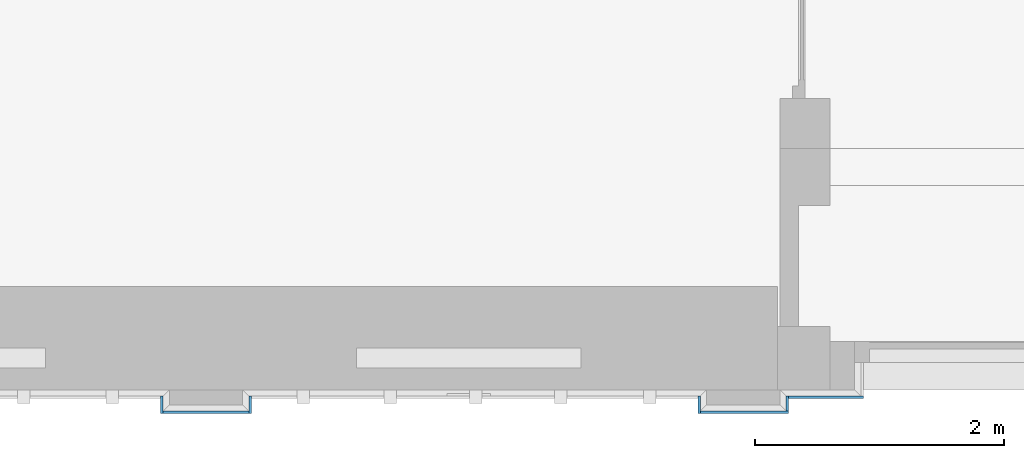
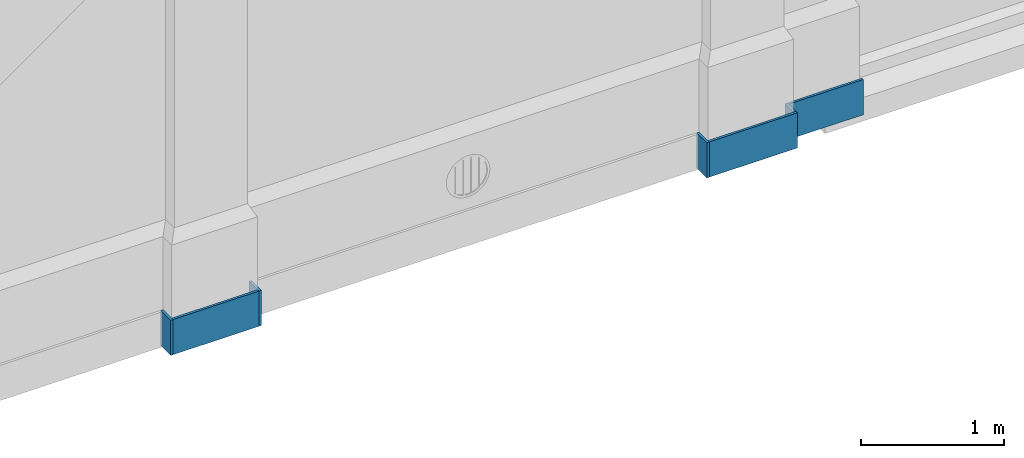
"""IFC4 building model written with IfcOpenShell, lengths in metres."""

from ifc_helpers import new_model, entity, si_unit, converted_unit, derived_unit, frame, frame_2d, origin, origin_with_axes, place, context, subcontext, project, spatial, rectangle, extrude, material, layer, layer_set, layer_usage, element, save


model = new_model("IFC4")

# Units and contexts
model_context = context("Model", 3, precision=1e-05, world=origin())
body_context = subcontext(model_context, "Body", "Model", "MODEL_VIEW")
ifc_project = project(units=[si_unit("LENGTHUNIT", "METRE"), si_unit("AREAUNIT", "SQUARE_METRE"), si_unit("VOLUMEUNIT", "CUBIC_METRE"), si_unit("MASSUNIT", "GRAM", prefix="KILO"), converted_unit("PLANEANGLEUNIT", "DEGREE", entity("IfcPlaneAngleMeasure", 0.0174532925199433), si_unit("PLANEANGLEUNIT", "RADIAN"), dimensions=[0, 0, 0, 0, 0, 0, 0]), derived_unit("THERMALTRANSMITTANCEUNIT", [(si_unit("POWERUNIT", "WATT"), 1), (si_unit("THERMODYNAMICTEMPERATUREUNIT", "KELVIN"), -1), (si_unit("LENGTHUNIT", "METRE"), -2)]), derived_unit("VOLUMETRICFLOWRATEUNIT", [(si_unit("LENGTHUNIT", "METRE"), 3), (converted_unit("TIMEUNIT", "hour", entity("IfcTimeMeasure", 3600.0), si_unit("TIMEUNIT", "SECOND"), dimensions=[0, 0, 1, 0, 0, 0, 0]), -1), (si_unit("LENGTHUNIT", "METRE"), -1)])], contexts=[model_context])

# Building, storeys
building_placement = place(None, origin())
building = spatial("IfcBuilding", under=ifc_project, at=building_placement, Name="Bestandsgebäude A - Sporthalle / Wohnhaus (TB 100-499)   ANPASSEN !!!", CompositionType="ELEMENT")
storey_1_placement = place(building_placement, origin())
storey_1 = spatial("IfcBuildingStorey", under=building, at=storey_1_placement, Name="Geb. A Erdgeschoss (TB 200-249)", CompositionType="ELEMENT", Elevation=0.0)
storey_2_placement = place(storey_1_placement, origin())
storey_2 = spatial("IfcBuildingStorey", under=storey_1, at=storey_2_placement, Name="Architektur (TB 200-209)", CompositionType="PARTIAL")

# Walls
ifc_material_1 = material(Name="concrete")
ifc_layer_1 = layer(ifc_material_1, 0.02)
ifc_layer_set_1 = layer_set([ifc_layer_1])
ifc_layer_usage_1 = layer_usage(ifc_layer_set_1, "AXIS2", "POSITIVE", 0.0)
wall_1_placement = place(storey_2_placement, frame((-13.855, -0.189999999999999, -0.3), z_axis=(0.0, 0.0, 1.0), x_axis=(1.29927814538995e-14, 1.0, 0.0)))
element("IfcWall", 1, at=wall_1_placement, inside=storey_2, material=ifc_layer_usage_1, Name="reinforced - bearing", PredefinedType="USERDEFINED", context=body_context, shape_type="SweptSolid", body=[
    extrude(rectangle(XDim=0.139999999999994, YDim=0.02, at=frame_2d((0.0699999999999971, 0.01), x_axis=(1.0, 0.0))), origin_with_axes(), (0.0, 0.0, 1.0), 0.3),
])
ifc_material_2 = material(Name="concrete")
ifc_layer_2 = layer(ifc_material_2, 0.02)
ifc_layer_set_2 = layer_set([ifc_layer_2])
ifc_layer_usage_2 = layer_usage(ifc_layer_set_2, "AXIS2", "POSITIVE", 0.0)
wall_2_placement = place(storey_2_placement, frame((-13.165, -0.169999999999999, -0.3), z_axis=(0.0, 0.0, 1.0), x_axis=(-1.0, 7.00245014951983e-16, 0.0)))
element("IfcWall", 2, at=wall_2_placement, inside=storey_2, material=ifc_layer_usage_2, Name="reinforced - bearing", PredefinedType="USERDEFINED", context=body_context, shape_type="SweptSolid", body=[
    extrude(rectangle(XDim=0.69, YDim=0.02, at=frame_2d((0.345, 0.01), x_axis=(1.0, 0.0))), origin_with_axes(), (0.0, 0.0, 1.0), 0.3),
])
ifc_material_3 = material(Name="concrete")
ifc_layer_3 = layer(ifc_material_3, 0.02)
ifc_layer_set_3 = layer_set([ifc_layer_3])
ifc_layer_usage_3 = layer_usage(ifc_layer_set_3, "AXIS2", "POSITIVE", 0.0)
wall_3_placement = place(storey_2_placement, frame((-13.165, -0.0500000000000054, -0.3), z_axis=(0.0, 0.0, 1.0), x_axis=(0.0, -1.0, 0.0)))
element("IfcWall", 3, at=wall_3_placement, inside=storey_2, material=ifc_layer_usage_3, Name="reinforced - bearing", PredefinedType="USERDEFINED", context=body_context, shape_type="SweptSolid", body=[
    extrude(rectangle(XDim=0.139999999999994, YDim=0.02, at=frame_2d((0.0699999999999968, 0.01), x_axis=(1.0, 0.0))), origin_with_axes(), (0.0, 0.0, 1.0), 0.3),
])
ifc_material_4 = material(Name="concrete")
ifc_layer_4 = layer(ifc_material_4, 0.02)
ifc_layer_set_4 = layer_set([ifc_layer_4])
ifc_layer_usage_4 = layer_usage(ifc_layer_set_4, "AXIS2", "POSITIVE", 0.0)
wall_4_placement = place(storey_2_placement, frame((-9.54000000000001, -0.189999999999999, -0.3), z_axis=(0.0, 0.0, 1.0), x_axis=(1.29927814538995e-14, 1.0, 0.0)))
element("IfcWall", 4, at=wall_4_placement, inside=storey_2, material=ifc_layer_usage_4, Name="reinforced - bearing", PredefinedType="USERDEFINED", context=body_context, shape_type="SweptSolid", body=[
    extrude(rectangle(XDim=0.139999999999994, YDim=0.02, at=frame_2d((0.0699999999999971, 0.01), x_axis=(1.0, 0.0))), origin_with_axes(), (0.0, 0.0, 1.0), 0.3),
])
ifc_material_5 = material(Name="concrete")
ifc_layer_5 = layer(ifc_material_5, 0.02)
ifc_layer_set_5 = layer_set([ifc_layer_5])
ifc_layer_usage_5 = layer_usage(ifc_layer_set_5, "AXIS2", "POSITIVE", 0.0)
wall_5_placement = place(storey_2_placement, frame((-8.83000000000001, -0.169999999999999, -0.3), z_axis=(0.0, 0.0, 1.0), x_axis=(-1.0, 6.80519803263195e-16, 0.0)))
element("IfcWall", 5, at=wall_5_placement, inside=storey_2, material=ifc_layer_usage_5, Name="reinforced - bearing", PredefinedType="USERDEFINED", context=body_context, shape_type="SweptSolid", body=[
    extrude(rectangle(XDim=0.71, YDim=0.02, at=frame_2d((0.355, 0.01), x_axis=(1.0, 0.0))), origin_with_axes(), (0.0, 0.0, 1.0), 0.3),
])
ifc_material_6 = material(Name="concrete")
ifc_layer_6 = layer(ifc_material_6, 0.02)
ifc_layer_set_6 = layer_set([ifc_layer_6])
ifc_layer_usage_6 = layer_usage(ifc_layer_set_6, "AXIS2", "POSITIVE", 0.0)
wall_6_placement = place(storey_2_placement, frame((-8.85000000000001, -0.0500000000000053, -0.3), z_axis=(0.0, 0.0, 1.0), x_axis=(0.0, -1.0, 0.0)))
element("IfcWall", 6, at=wall_6_placement, inside=storey_2, material=ifc_layer_usage_6, Name="reinforced - bearing", PredefinedType="USERDEFINED", context=body_context, shape_type="SweptSolid", body=[
    extrude(rectangle(XDim=0.119999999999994, YDim=0.02, at=frame_2d((0.0599999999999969, 0.01), x_axis=(1.0, 0.0))), origin_with_axes(), (0.0, 0.0, 1.0), 0.3),
])
ifc_material_7 = material(Name="concrete")
ifc_layer_7 = layer(ifc_material_7, 0.02)
ifc_layer_set_7 = layer_set([ifc_layer_7])
ifc_layer_usage_7 = layer_usage(ifc_layer_set_7, "AXIS2", "POSITIVE", 0.0)
wall_7_placement = place(storey_2_placement, frame((-8.23000000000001, -0.049999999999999, -0.3), z_axis=(0.0, 0.0, 1.0), x_axis=(-1.0, 3.12638803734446e-15, 0.0)))
element("IfcWall", 7, at=wall_7_placement, inside=storey_2, material=ifc_layer_usage_7, Name="reinforced - bearing", PredefinedType="USERDEFINED", context=body_context, shape_type="SweptSolid", body=[
    extrude(rectangle(XDim=0.599999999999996, YDim=0.02, at=frame_2d((0.299999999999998, 0.01), x_axis=(1.0, 0.0))), origin_with_axes(), (0.0, 0.0, 1.0), 0.3),
])

save(model, "model.ifc")
